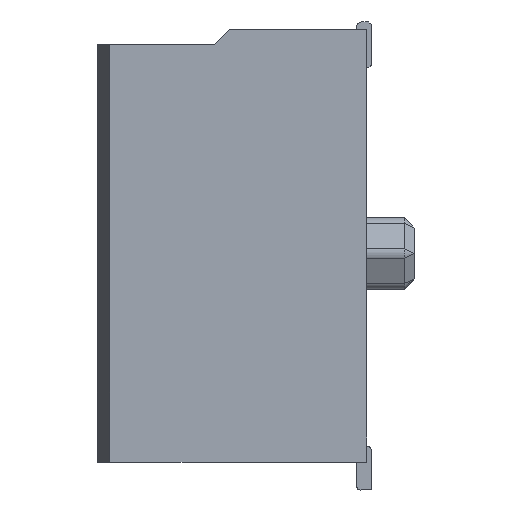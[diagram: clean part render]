
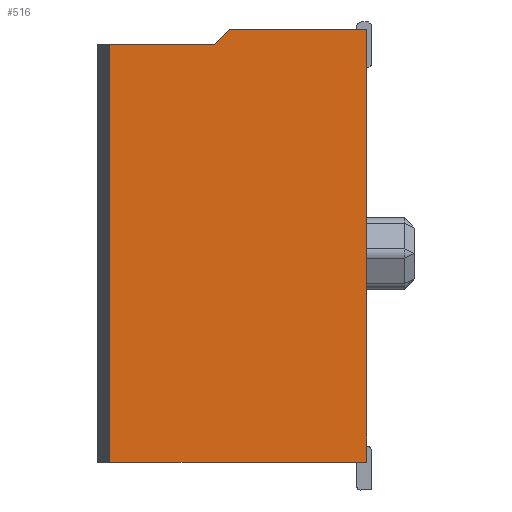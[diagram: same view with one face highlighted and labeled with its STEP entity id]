
A CAD part, left-side view. The second image highlights one B-rep face of the part: STEP entity #516.
In plain terms, the highlighted planar face has unit normal (-1, 0, 0).
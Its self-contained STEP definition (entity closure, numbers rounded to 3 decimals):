
#516 = ADVANCED_FACE ( 'NONE', ( #30187 ), #27712, .F. ) ;
#5029 = VERTEX_POINT ( 'NONE', #40951 ) ;
#5053 = VERTEX_POINT ( 'NONE', #40933 ) ;
#5055 = VERTEX_POINT ( 'NONE', #40957 ) ;
#5067 = VERTEX_POINT ( 'NONE', #40926 ) ;
#5074 = VERTEX_POINT ( 'NONE', #16159 ) ;
#5078 = VERTEX_POINT ( 'NONE', #39873 ) ;
#5480 = ORIENTED_EDGE ( 'NONE', *, *, #45296, .T. ) ;
#5482 = ORIENTED_EDGE ( 'NONE', *, *, #45258, .T. ) ;
#5485 = ORIENTED_EDGE ( 'NONE', *, *, #45285, .F. ) ;
#5486 = ORIENTED_EDGE ( 'NONE', *, *, #45242, .T. ) ;
#5522 = ORIENTED_EDGE ( 'NONE', *, *, #45261, .T. ) ;
#5523 = ORIENTED_EDGE ( 'NONE', *, *, #45196, .T. ) ;
#16159 = CARTESIAN_POINT ( 'NONE',  ( -4.26, 0.108, 3.95 ) ) ;
#20606 = LINE ( 'NONE', #39913, #20635 ) ;
#20635 = VECTOR ( 'NONE', #39919, 1000. ) ;
#20735 = VECTOR ( 'NONE', #40076, 1000. ) ;
#20751 = LINE ( 'NONE', #40090, #20735 ) ;
#20761 = VECTOR ( 'NONE', #40135, 1000. ) ;
#20770 = LINE ( 'NONE', #40171, #20776 ) ;
#20776 = VECTOR ( 'NONE', #40149, 1000. ) ;
#20782 = LINE ( 'NONE', #40096, #20761 ) ;
#20801 = VECTOR ( 'NONE', #40182, 1000. ) ;
#20810 = LINE ( 'NONE', #40193, #20801 ) ;
#20842 = LINE ( 'NONE', #40173, #20851 ) ;
#20851 = VECTOR ( 'NONE', #40194, 1000. ) ;
#22017 = EDGE_LOOP ( 'NONE', ( #5523, #5480, #5522, #5482, #5485, #5486 ) ) ;
#27712 = PLANE ( 'NONE',  #35128 ) ;
#27715 = CARTESIAN_POINT ( 'NONE',  ( -4.26, 2.408, 4.25 ) ) ;
#27727 = DIRECTION ( 'NONE',  ( 0., 0., -1. ) ) ;
#27729 = DIRECTION ( 'NONE',  ( 1., 0., 0. ) ) ;
#30187 = FACE_OUTER_BOUND ( 'NONE', #22017, .T. ) ;
#35128 = AXIS2_PLACEMENT_3D ( 'NONE', #27715, #27729, #27727 ) ;
#39873 = CARTESIAN_POINT ( 'NONE',  ( -4.26, -2.892, 4.25 ) ) ;
#39913 = CARTESIAN_POINT ( 'NONE',  ( -4.26, 2.408, 3.95 ) ) ;
#39919 = DIRECTION ( 'NONE',  ( 0., 1., 0. ) ) ;
#40076 = DIRECTION ( 'NONE',  ( 0., 0.707, -0.707 ) ) ;
#40090 = CARTESIAN_POINT ( 'NONE',  ( -4.26, 0.108, 3.95 ) ) ;
#40096 = CARTESIAN_POINT ( 'NONE',  ( -4.26, -2.892, 4.25 ) ) ;
#40135 = DIRECTION ( 'NONE',  ( 0., 0., 1. ) ) ;
#40149 = DIRECTION ( 'NONE',  ( 0., -1., 0. ) ) ;
#40171 = CARTESIAN_POINT ( 'NONE',  ( -4.26, 2.408, -4.25 ) ) ;
#40173 = CARTESIAN_POINT ( 'NONE',  ( -4.26, 2.158, 4.25 ) ) ;
#40182 = DIRECTION ( 'NONE',  ( 0., -1., 0. ) ) ;
#40193 = CARTESIAN_POINT ( 'NONE',  ( -4.26, 2.408, 4.25 ) ) ;
#40194 = DIRECTION ( 'NONE',  ( 0., 0., -1. ) ) ;
#40926 = CARTESIAN_POINT ( 'NONE',  ( -4.26, -2.892, -4.25 ) ) ;
#40933 = CARTESIAN_POINT ( 'NONE',  ( -4.26, -0.192, 4.25 ) ) ;
#40951 = CARTESIAN_POINT ( 'NONE',  ( -4.26, 2.158, -4.25 ) ) ;
#40957 = CARTESIAN_POINT ( 'NONE',  ( -4.26, 2.158, 3.95 ) ) ;
#45196 = EDGE_CURVE ( 'NONE', #5074, #5055, #20606, .T. ) ;
#45242 = EDGE_CURVE ( 'NONE', #5053, #5074, #20751, .T. ) ;
#45258 = EDGE_CURVE ( 'NONE', #5067, #5078, #20782, .T. ) ;
#45261 = EDGE_CURVE ( 'NONE', #5029, #5067, #20770, .T. ) ;
#45285 = EDGE_CURVE ( 'NONE', #5053, #5078, #20810, .T. ) ;
#45296 = EDGE_CURVE ( 'NONE', #5055, #5029, #20842, .T. ) ;
